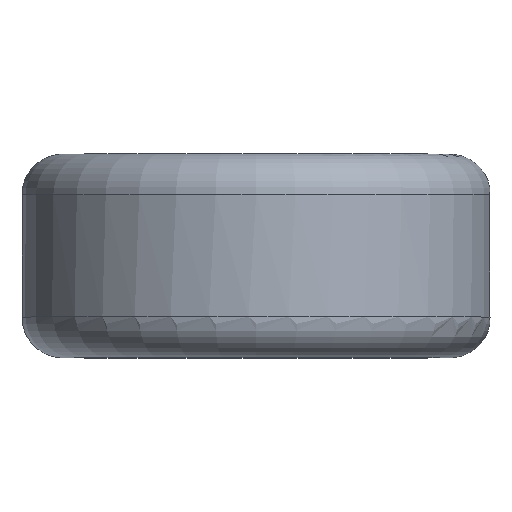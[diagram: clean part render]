
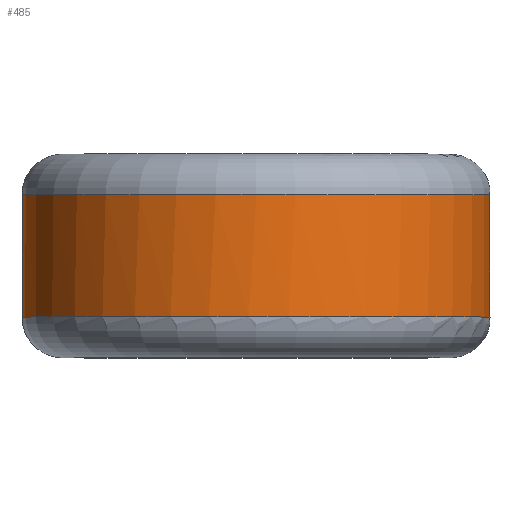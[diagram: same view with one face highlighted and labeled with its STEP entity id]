
A CAD part, top view. The second image highlights one B-rep face of the part: STEP entity #485.
In plain terms, the highlighted cylindrical face has radius 5.75 mm (diameter 11.5 mm), a full revolution.
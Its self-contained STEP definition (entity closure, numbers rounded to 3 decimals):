
#48=LINE('',#2510,#53);
#53=VECTOR('',#676,5.75);
#62=CYLINDRICAL_SURFACE('',#559,5.75);
#86=FACE_OUTER_BOUND('',#117,.T.);
#117=EDGE_LOOP('',(#412,#413,#414,#415,#416,#417,#418,#419,#420,#421,#422,
#423));
#145=CIRCLE('',#543,5.75);
#146=CIRCLE('',#544,5.75);
#147=CIRCLE('',#545,5.75);
#153=CIRCLE('',#552,5.75);
#154=CIRCLE('',#553,5.75);
#155=CIRCLE('',#554,5.75);
#177=B_SPLINE_CURVE_WITH_KNOTS('',3,(#971,#972,#973,#974,#975,#976,#977,
#978,#979,#980,#981,#982,#983,#984,#985,#986,#987,#988,#989,#990,#991,#992,
#993,#994,#995),.UNSPECIFIED.,.F.,.F.,(4,3,3,3,3,3,3,3,4),(-0.166,
-0.131,-0.095,-0.093,-0.091,
-0.087,-0.078,-0.06,-0.049),
 .UNSPECIFIED.);
#178=B_SPLINE_CURVE_WITH_KNOTS('',3,(#996,#997,#998,#999,#1000,#1001,#1002,
#1003,#1004),.UNSPECIFIED.,.F.,.F.,(4,1,1,1,1,1,4),(-0.323,
-0.299,-0.273,-0.246,-0.228,
-0.211,-0.193),.UNSPECIFIED.);
#186=B_SPLINE_CURVE_WITH_KNOTS('',3,(#1763,#1764,#1765,#1766,#1767,#1768,
#1769,#1770,#1771,#1772,#1773,#1774,#1775,#1776,#1777,#1778,#1779,#1780,
#1781,#1782,#1783,#1784,#1785,#1786,#1787),.UNSPECIFIED.,.F.,.F.,(4,3,3,
3,3,3,3,3,4),(-0.166,-0.131,-0.096,
-0.093,-0.091,-0.087,-0.078,
-0.06,-0.049),.UNSPECIFIED.);
#187=B_SPLINE_CURVE_WITH_KNOTS('',3,(#1788,#1789,#1790,#1791,#1792,#1793,
#1794,#1795,#1796),.UNSPECIFIED.,.F.,.F.,(4,1,1,1,1,1,4),(-0.324,
-0.299,-0.273,-0.246,-0.229,
-0.211,-0.193),.UNSPECIFIED.);
#207=VERTEX_POINT('',#891);
#212=VERTEX_POINT('',#968);
#213=VERTEX_POINT('',#970);
#217=VERTEX_POINT('',#1596);
#218=VERTEX_POINT('',#1599);
#219=VERTEX_POINT('',#1683);
#224=VERTEX_POINT('',#1760);
#225=VERTEX_POINT('',#1762);
#229=VERTEX_POINT('',#2388);
#230=VERTEX_POINT('',#2391);
#266=EDGE_CURVE('',#212,#213,#177,.T.);
#267=EDGE_CURVE('',#213,#207,#178,.T.);
#274=EDGE_CURVE('',#217,#212,#145,.T.);
#275=EDGE_CURVE('',#207,#218,#146,.T.);
#276=EDGE_CURVE('',#218,#217,#147,.T.);
#283=EDGE_CURVE('',#224,#225,#186,.T.);
#284=EDGE_CURVE('',#225,#219,#187,.T.);
#291=EDGE_CURVE('',#229,#224,#153,.T.);
#292=EDGE_CURVE('',#219,#230,#154,.T.);
#293=EDGE_CURVE('',#230,#229,#155,.T.);
#298=EDGE_CURVE('',#230,#218,#48,.T.);
#412=ORIENTED_EDGE('',*,*,#283,.F.);
#413=ORIENTED_EDGE('',*,*,#291,.F.);
#414=ORIENTED_EDGE('',*,*,#293,.F.);
#415=ORIENTED_EDGE('',*,*,#298,.T.);
#416=ORIENTED_EDGE('',*,*,#275,.F.);
#417=ORIENTED_EDGE('',*,*,#267,.F.);
#418=ORIENTED_EDGE('',*,*,#266,.F.);
#419=ORIENTED_EDGE('',*,*,#274,.F.);
#420=ORIENTED_EDGE('',*,*,#276,.F.);
#421=ORIENTED_EDGE('',*,*,#298,.F.);
#422=ORIENTED_EDGE('',*,*,#292,.F.);
#423=ORIENTED_EDGE('',*,*,#284,.F.);
#485=ADVANCED_FACE('',(#86),#62,.T.);
#543=AXIS2_PLACEMENT_3D('',#1598,#642,#643);
#544=AXIS2_PLACEMENT_3D('',#1600,#644,#645);
#545=AXIS2_PLACEMENT_3D('',#1601,#646,#647);
#552=AXIS2_PLACEMENT_3D('',#2390,#660,#661);
#553=AXIS2_PLACEMENT_3D('',#2392,#662,#663);
#554=AXIS2_PLACEMENT_3D('',#2393,#664,#665);
#559=AXIS2_PLACEMENT_3D('',#2509,#674,#675);
#642=DIRECTION('center_axis',(0.,1.,0.));
#643=DIRECTION('ref_axis',(-1.,0.,0.));
#644=DIRECTION('center_axis',(0.,1.,0.));
#645=DIRECTION('ref_axis',(-1.,0.,0.));
#646=DIRECTION('center_axis',(0.,1.,0.));
#647=DIRECTION('ref_axis',(-1.,0.,0.));
#660=DIRECTION('center_axis',(0.,-1.,0.));
#661=DIRECTION('ref_axis',(-1.,0.,0.));
#662=DIRECTION('center_axis',(0.,-1.,0.));
#663=DIRECTION('ref_axis',(-1.,0.,0.));
#664=DIRECTION('center_axis',(0.,-1.,0.));
#665=DIRECTION('ref_axis',(-1.,0.,0.));
#674=DIRECTION('center_axis',(0.,-1.,0.));
#675=DIRECTION('ref_axis',(1.,0.,0.));
#676=DIRECTION('',(0.,1.,0.));
#891=CARTESIAN_POINT('',(-3.3,1.5,-4.709));
#968=CARTESIAN_POINT('',(-2.939,1.5,-4.942));
#970=CARTESIAN_POINT('',(-3.031,0.074,-4.886));
#971=CARTESIAN_POINT('Ctrl Pts',(-2.939,1.5,-4.942));
#972=CARTESIAN_POINT('Ctrl Pts',(-2.784,1.44,-5.034));
#973=CARTESIAN_POINT('Ctrl Pts',(-2.644,1.301,-5.106));
#974=CARTESIAN_POINT('Ctrl Pts',(-2.569,1.123,-5.144));
#975=CARTESIAN_POINT('Ctrl Pts',(-2.494,0.945,-5.182));
#976=CARTESIAN_POINT('Ctrl Pts',(-2.483,0.729,-5.186));
#977=CARTESIAN_POINT('Ctrl Pts',(-2.544,0.543,-5.156));
#978=CARTESIAN_POINT('Ctrl Pts',(-2.548,0.531,-5.154));
#979=CARTESIAN_POINT('Ctrl Pts',(-2.552,0.52,-5.152));
#980=CARTESIAN_POINT('Ctrl Pts',(-2.556,0.508,-5.15));
#981=CARTESIAN_POINT('Ctrl Pts',(-2.56,0.497,-5.148));
#982=CARTESIAN_POINT('Ctrl Pts',(-2.565,0.486,-5.146));
#983=CARTESIAN_POINT('Ctrl Pts',(-2.57,0.474,-5.144));
#984=CARTESIAN_POINT('Ctrl Pts',(-2.579,0.452,-5.139));
#985=CARTESIAN_POINT('Ctrl Pts',(-2.59,0.431,-5.133));
#986=CARTESIAN_POINT('Ctrl Pts',(-2.601,0.41,-5.128));
#987=CARTESIAN_POINT('Ctrl Pts',(-2.624,0.368,-5.116));
#988=CARTESIAN_POINT('Ctrl Pts',(-2.65,0.328,-5.103));
#989=CARTESIAN_POINT('Ctrl Pts',(-2.679,0.293,-5.087));
#990=CARTESIAN_POINT('Ctrl Pts',(-2.738,0.221,-5.056));
#991=CARTESIAN_POINT('Ctrl Pts',(-2.808,0.164,-5.018));
#992=CARTESIAN_POINT('Ctrl Pts',(-2.883,0.125,-4.975));
#993=CARTESIAN_POINT('Ctrl Pts',(-2.93,0.1,-4.947));
#994=CARTESIAN_POINT('Ctrl Pts',(-2.98,0.084,-4.917));
#995=CARTESIAN_POINT('Ctrl Pts',(-3.03,0.074,-4.886));
#996=CARTESIAN_POINT('Ctrl Pts',(-3.03,0.074,-4.886));
#997=CARTESIAN_POINT('Ctrl Pts',(-3.139,0.054,-4.818));
#998=CARTESIAN_POINT('Ctrl Pts',(-3.373,0.087,-4.663));
#999=CARTESIAN_POINT('Ctrl Pts',(-3.635,0.381,-4.457));
#1000=CARTESIAN_POINT('Ctrl Pts',(-3.713,0.784,-4.391));
#1001=CARTESIAN_POINT('Ctrl Pts',(-3.648,1.13,-4.445));
#1002=CARTESIAN_POINT('Ctrl Pts',(-3.51,1.371,-4.556));
#1003=CARTESIAN_POINT('Ctrl Pts',(-3.374,1.47,-4.657));
#1004=CARTESIAN_POINT('Ctrl Pts',(-3.3,1.5,-4.709));
#1596=CARTESIAN_POINT('',(0.,1.5,5.75));
#1598=CARTESIAN_POINT('Origin',(0.,1.5,0.));
#1599=CARTESIAN_POINT('',(-5.75,1.5,0.));
#1600=CARTESIAN_POINT('Origin',(0.,1.5,0.));
#1601=CARTESIAN_POINT('Origin',(0.,1.5,0.));
#1683=CARTESIAN_POINT('',(3.3,-1.5,-4.709));
#1760=CARTESIAN_POINT('',(2.939,-1.5,-4.942));
#1762=CARTESIAN_POINT('',(3.031,-0.074,-4.886));
#1763=CARTESIAN_POINT('Ctrl Pts',(2.939,-1.5,-4.942));
#1764=CARTESIAN_POINT('Ctrl Pts',(2.784,-1.44,-5.034));
#1765=CARTESIAN_POINT('Ctrl Pts',(2.644,-1.301,-5.106));
#1766=CARTESIAN_POINT('Ctrl Pts',(2.569,-1.123,-5.144));
#1767=CARTESIAN_POINT('Ctrl Pts',(2.494,-0.945,-5.182));
#1768=CARTESIAN_POINT('Ctrl Pts',(2.483,-0.729,-5.186));
#1769=CARTESIAN_POINT('Ctrl Pts',(2.544,-0.543,-5.156));
#1770=CARTESIAN_POINT('Ctrl Pts',(2.548,-0.531,-5.154));
#1771=CARTESIAN_POINT('Ctrl Pts',(2.552,-0.52,-5.152));
#1772=CARTESIAN_POINT('Ctrl Pts',(2.556,-0.508,-5.15));
#1773=CARTESIAN_POINT('Ctrl Pts',(2.56,-0.497,-5.148));
#1774=CARTESIAN_POINT('Ctrl Pts',(2.565,-0.486,-5.146));
#1775=CARTESIAN_POINT('Ctrl Pts',(2.57,-0.474,-5.144));
#1776=CARTESIAN_POINT('Ctrl Pts',(2.579,-0.452,-5.139));
#1777=CARTESIAN_POINT('Ctrl Pts',(2.59,-0.431,-5.133));
#1778=CARTESIAN_POINT('Ctrl Pts',(2.601,-0.41,-5.128));
#1779=CARTESIAN_POINT('Ctrl Pts',(2.624,-0.368,-5.116));
#1780=CARTESIAN_POINT('Ctrl Pts',(2.65,-0.328,-5.103));
#1781=CARTESIAN_POINT('Ctrl Pts',(2.679,-0.293,-5.087));
#1782=CARTESIAN_POINT('Ctrl Pts',(2.738,-0.221,-5.056));
#1783=CARTESIAN_POINT('Ctrl Pts',(2.808,-0.164,-5.018));
#1784=CARTESIAN_POINT('Ctrl Pts',(2.883,-0.125,-4.975));
#1785=CARTESIAN_POINT('Ctrl Pts',(2.93,-0.1,-4.947));
#1786=CARTESIAN_POINT('Ctrl Pts',(2.98,-0.084,
-4.917));
#1787=CARTESIAN_POINT('Ctrl Pts',(3.03,-0.074,
-4.886));
#1788=CARTESIAN_POINT('Ctrl Pts',(3.03,-0.074,
-4.886));
#1789=CARTESIAN_POINT('Ctrl Pts',(3.139,-0.054,
-4.818));
#1790=CARTESIAN_POINT('Ctrl Pts',(3.373,-0.087,
-4.663));
#1791=CARTESIAN_POINT('Ctrl Pts',(3.635,-0.381,-4.457));
#1792=CARTESIAN_POINT('Ctrl Pts',(3.713,-0.784,-4.391));
#1793=CARTESIAN_POINT('Ctrl Pts',(3.648,-1.13,-4.445));
#1794=CARTESIAN_POINT('Ctrl Pts',(3.51,-1.371,-4.556));
#1795=CARTESIAN_POINT('Ctrl Pts',(3.374,-1.47,-4.657));
#1796=CARTESIAN_POINT('Ctrl Pts',(3.3,-1.5,-4.709));
#2388=CARTESIAN_POINT('',(0.,-1.5,-5.75));
#2390=CARTESIAN_POINT('Origin',(0.,-1.5,0.));
#2391=CARTESIAN_POINT('',(-5.75,-1.5,0.));
#2392=CARTESIAN_POINT('Origin',(0.,-1.5,0.));
#2393=CARTESIAN_POINT('Origin',(0.,-1.5,0.));
#2509=CARTESIAN_POINT('Origin',(0.,0.,
0.));
#2510=CARTESIAN_POINT('',(-5.75,0.,0.));
